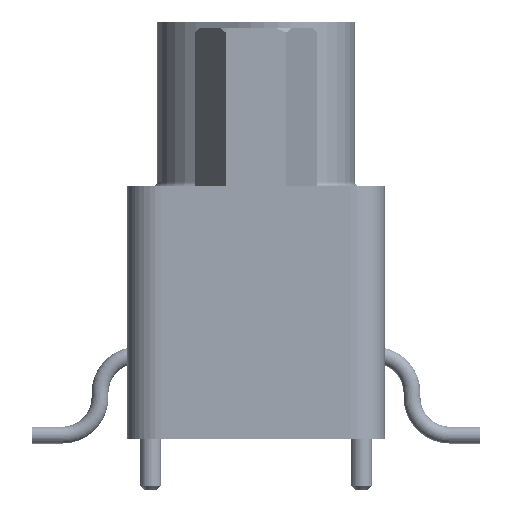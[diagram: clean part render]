
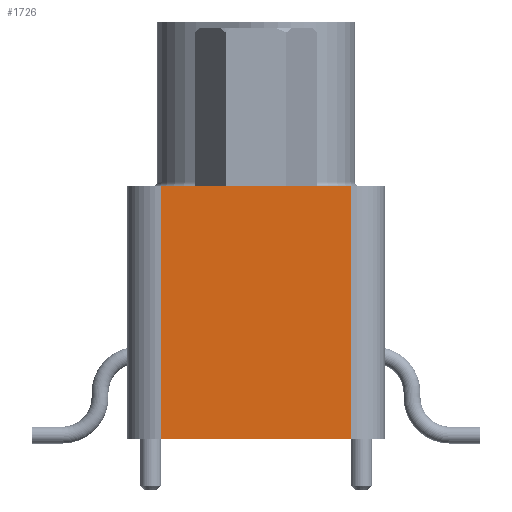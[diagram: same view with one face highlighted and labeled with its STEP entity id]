
A CAD part, left-side view. The second image highlights one B-rep face of the part: STEP entity #1726.
In plain terms, the highlighted planar face has unit normal (-1, 0, 0).
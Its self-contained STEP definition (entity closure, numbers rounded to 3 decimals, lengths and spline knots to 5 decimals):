
#182 = VECTOR ( 'NONE', #14637, 39.37008 ) ;
#1726 = ADVANCED_FACE ( 'NONE', ( #61262 ), #47985, .T. ) ;
#5632 = ORIENTED_EDGE ( 'NONE', *, *, #32753, .T. ) ;
#5733 = VECTOR ( 'NONE', #29781, 39.37008 ) ;
#5941 = EDGE_LOOP ( 'NONE', ( #5632, #48272, #59336, #42775 ) ) ;
#6546 = CARTESIAN_POINT ( 'NONE',  ( -0.9125, -0.1125, 0.04 ) ) ;
#7045 = CARTESIAN_POINT ( 'NONE',  ( -0.9125, 0.1125, 0.04 ) ) ;
#7058 = DIRECTION ( 'NONE',  ( 0., 0., -1. ) ) ;
#13206 = DIRECTION ( 'NONE',  ( 0., 0., -1. ) ) ;
#14637 = DIRECTION ( 'NONE',  ( 0., 1., 0. ) ) ;
#14791 = VECTOR ( 'NONE', #13206, 39.37008 ) ;
#18315 = LINE ( 'NONE', #6546, #23168 ) ;
#19846 = EDGE_CURVE ( 'NONE', #78880, #64785, #39666, .T. ) ;
#23168 = VECTOR ( 'NONE', #7058, 39.37008 ) ;
#24045 = EDGE_CURVE ( 'NONE', #35599, #70003, #67443, .T. ) ;
#24569 = CARTESIAN_POINT ( 'NONE',  ( -0.9125, -0.1125, -0.26 ) ) ;
#29781 = DIRECTION ( 'NONE',  ( 0., 1., 0. ) ) ;
#32753 = EDGE_CURVE ( 'NONE', #64785, #70003, #59241, .T. ) ;
#35599 = VERTEX_POINT ( 'NONE', #24569 ) ;
#35783 = DIRECTION ( 'NONE',  ( 0., 0., 1. ) ) ;
#39666 = LINE ( 'NONE', #39734, #182 ) ;
#39734 = CARTESIAN_POINT ( 'NONE',  ( -0.9125, -0.1125, 0.04 ) ) ;
#41485 = CARTESIAN_POINT ( 'NONE',  ( -0.9125, -0.1125, 0.04 ) ) ;
#41534 = CARTESIAN_POINT ( 'NONE',  ( -0.9125, 0.1125, -0.26 ) ) ;
#42775 = ORIENTED_EDGE ( 'NONE', *, *, #19846, .T. ) ;
#43947 = EDGE_CURVE ( 'NONE', #78880, #35599, #18315, .T. ) ;
#44715 = CARTESIAN_POINT ( 'NONE',  ( -0.9125, -0.1125, 0.04 ) ) ;
#47985 = PLANE ( 'NONE',  #66527 ) ;
#48272 = ORIENTED_EDGE ( 'NONE', *, *, #24045, .F. ) ;
#53835 = CARTESIAN_POINT ( 'NONE',  ( -0.9125, -0.1125, -0.26 ) ) ;
#59241 = LINE ( 'NONE', #7045, #14791 ) ;
#59336 = ORIENTED_EDGE ( 'NONE', *, *, #43947, .F. ) ;
#59807 = DIRECTION ( 'NONE',  ( -1., 0., 0. ) ) ;
#61262 = FACE_OUTER_BOUND ( 'NONE', #5941, .T. ) ;
#64700 = CARTESIAN_POINT ( 'NONE',  ( -0.9125, 0.1125, 0.04 ) ) ;
#64785 = VERTEX_POINT ( 'NONE', #64700 ) ;
#66527 = AXIS2_PLACEMENT_3D ( 'NONE', #41485, #59807, #35783 ) ;
#67443 = LINE ( 'NONE', #53835, #5733 ) ;
#70003 = VERTEX_POINT ( 'NONE', #41534 ) ;
#78880 = VERTEX_POINT ( 'NONE', #44715 ) ;
